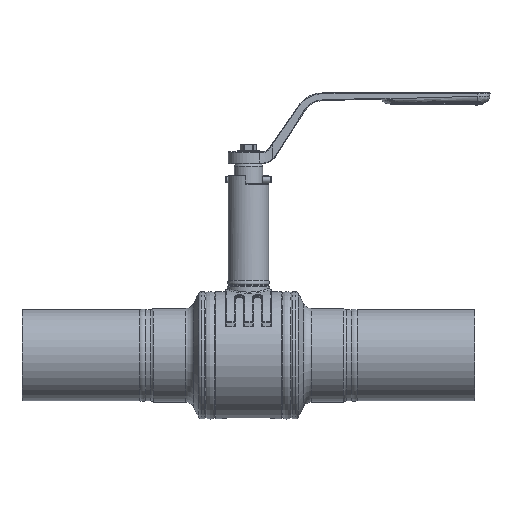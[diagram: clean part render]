
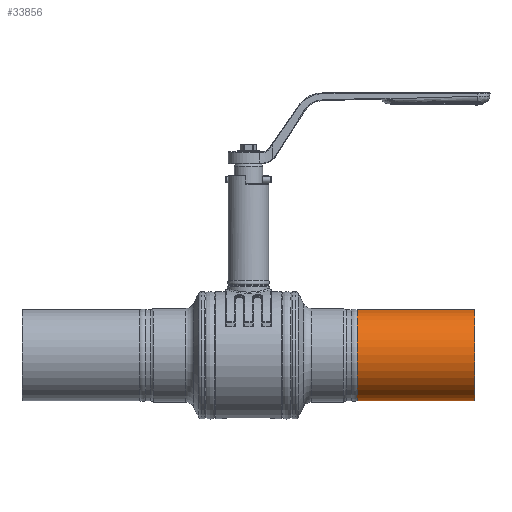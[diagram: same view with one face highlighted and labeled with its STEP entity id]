
A CAD part, front view. The second image highlights one B-rep face of the part: STEP entity #33856.
In plain terms, the highlighted cylindrical face has radius 30.15 mm (diameter 60.3 mm), a partial arc.
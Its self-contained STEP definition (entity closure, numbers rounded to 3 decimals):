
#10695=CARTESIAN_POINT('',(72.,0.,0.));
#10696=DIRECTION('',(-1.,0.,0.));
#10697=DIRECTION('',(0.,0.,-1.));
#10698=AXIS2_PLACEMENT_3D('',#10695,#10696,#10697);
#10700=DIRECTION('',(1.,0.,0.));
#10701=VECTOR('',#10700,78.);
#10702=CARTESIAN_POINT('',(72.,0.,30.15));
#10703=LINE('',#10702,#10701);
#10704=DIRECTION('',(1.,0.,0.));
#10705=VECTOR('',#10704,78.);
#10706=CARTESIAN_POINT('',(72.,0.,-30.15));
#10707=LINE('',#10706,#10705);
#10713=CARTESIAN_POINT('',(150.,0.,0.));
#10714=DIRECTION('',(1.,0.,0.));
#10715=DIRECTION('',(0.,0.,1.));
#10716=AXIS2_PLACEMENT_3D('',#10713,#10714,#10715);
#15584=CARTESIAN_POINT('',(150.,0.,30.15));
#15585=CARTESIAN_POINT('',(150.,0.,-30.15));
#15586=VERTEX_POINT('',#15584);
#15587=VERTEX_POINT('',#15585);
#16212=CARTESIAN_POINT('',(72.,0.,30.15));
#16213=CARTESIAN_POINT('',(72.,0.,-30.15));
#16214=VERTEX_POINT('',#16212);
#16215=VERTEX_POINT('',#16213);
#33842=CARTESIAN_POINT('',(154.,0.,0.));
#33843=DIRECTION('',(-1.,0.,0.));
#33844=DIRECTION('',(0.,0.,-1.));
#33845=AXIS2_PLACEMENT_3D('',#33842,#33843,#33844);
#33846=CYLINDRICAL_SURFACE('',#33845,30.15);
#33847=ORIENTED_EDGE('',*,*,#33817,.T.);
#33849=ORIENTED_EDGE('',*,*,#33848,.T.);
#33851=ORIENTED_EDGE('',*,*,#33850,.T.);
#33853=ORIENTED_EDGE('',*,*,#33852,.F.);
#33854=EDGE_LOOP('',(#33847,#33849,#33851,#33853));
#33855=FACE_OUTER_BOUND('',#33854,.F.);
#10699=CIRCLE('',#10698,30.15);
#10717=CIRCLE('',#10716,30.15);
#33817=EDGE_CURVE('',#16215,#16214,#10699,.T.);
#33848=EDGE_CURVE('',#16214,#15586,#10703,.T.);
#33850=EDGE_CURVE('',#15586,#15587,#10717,.T.);
#33852=EDGE_CURVE('',#16215,#15587,#10707,.T.);
#33856=ADVANCED_FACE('',(#33855),#33846,.T.);
